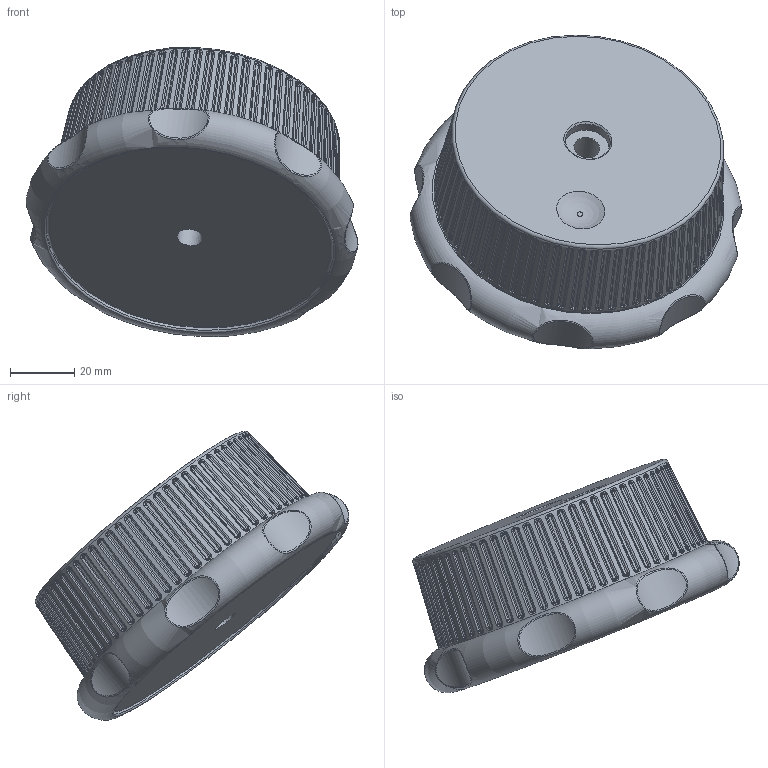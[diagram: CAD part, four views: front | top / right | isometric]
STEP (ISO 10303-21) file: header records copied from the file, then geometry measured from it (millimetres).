
FILE_DESCRIPTION(('FreeCAD Model'),'2;1');
FILE_NAME('Open CASCADE Shape Model','2023-05-06T18:44:57',('Author'),( ''),'Open CASCADE STEP processor 7.5','FreeCAD','Unknown');
FILE_SCHEMA(('AUTOMOTIVE_DESIGN { 1 0 10303 214 1 1 1 1 }'));
Length unit declared in the file: millimetre
Products named in the file (3): handle radio switcher  01120; part1; part2
Assembly tree (2 placements, depth 2):
  handle radio switcher  01120
    part2
    part1
Bounding box: 102.98 x 97.39 x 89.71 mm (x, y, z)
Volume: 272174.5 mm3; surface area: 35893.1 mm2
Topology: 2 solids, 2 shells, 1222 faces, 2858 edges, 1717 vertices
Faces by surface type: bspline 988, torus 146, cone 72, cylinder 12, plane 4
Full cylindrical faces by diameter (mm): 8 x1, 14 x1, 90 x2
Entity records: 71762 total; most frequent: CARTESIAN_POINT 49971, ORIENTED_EDGE 5664, DIRECTION 3030, EDGE_CURVE 2832, VERTEX_POINT 1712, B_SPLINE_CURVE_WITH_KNOTS 1556, AXIS2_PLACEMENT_3D 1515, EDGE_LOOP 1324
